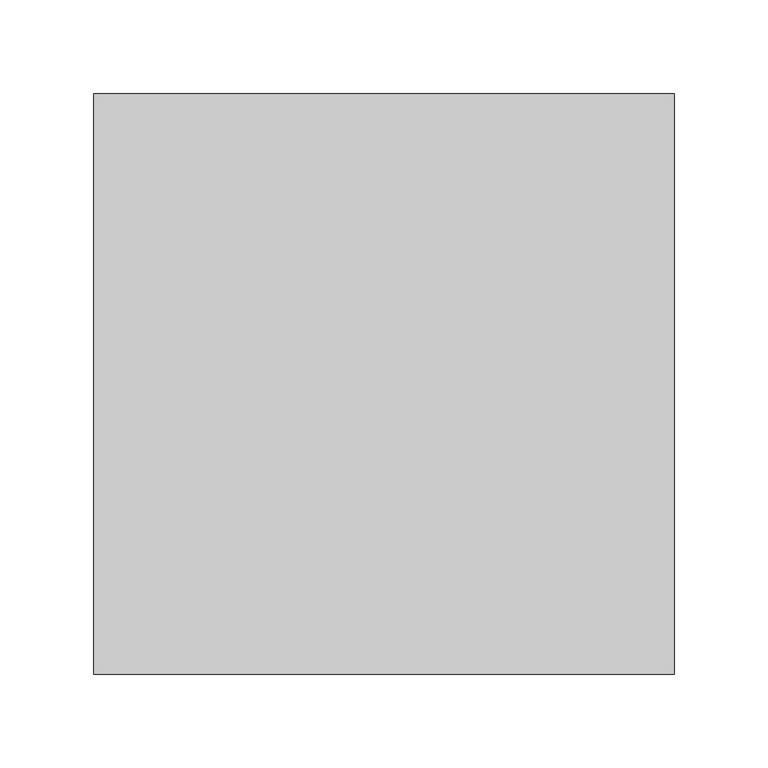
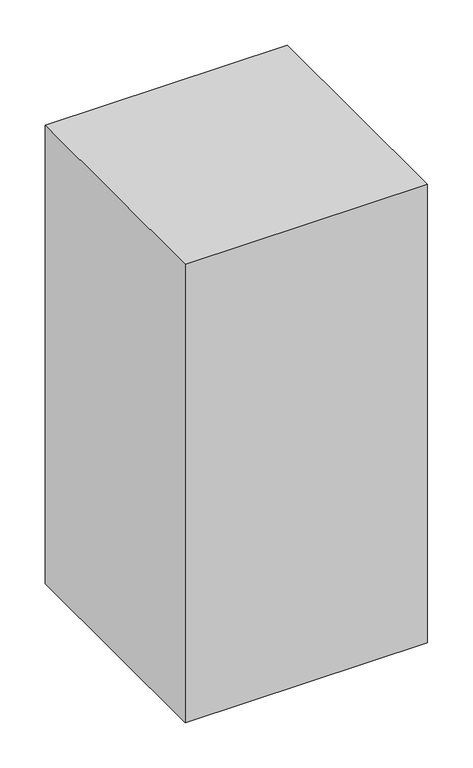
"""IFC4 building model written with IfcOpenShell, lengths in millimetres: proxy geometry, ▲GM_Зона обслуживания : Тип."""

from ifc_helpers import new_model, si_unit, origin, origin_with_axes, place, context, project, spatial, polyline, outline, extrude, source, transform, mapped, element, save


def generic_models_0633d148(model_context):
    return source(origin(), model_context, "Body", "SweptSolid", [
        extrude(outline(polyline([(310.0, -310.0), (0.0, -310.0), (0.0, 0.0), (310.0, 0.0), (310.0, -310.0)])), origin_with_axes(), (0.0, 0.0, 1.0), 620.0),
    ])


if __name__ == "__main__":
    model = new_model("IFC4")
    model_context = context("Model", 3, world=origin())
    ifc_project = project(units=[si_unit("LENGTHUNIT", "METRE", prefix="MILLI")], contexts=[model_context])
    site = spatial("IfcSite", under=ifc_project)
    building = spatial("IfcBuilding", under=site)
    placement = place(None, origin())
    generic_models_shape = generic_models_0633d148(model_context)
    element("IfcBuildingElementProxy", 1, Name="▲GM_Зона обслуживания : Тип", ObjectType="▲GM_Зона обслуживания : Тип", at=placement, inside=building, context=model_context, shape_type="MappedRepresentation", body=[
        mapped(generic_models_shape, transform((0.0, 0.0, 0.0), x_axis=(1.0, 0.0, 0.0), y_axis=(0.0, 1.0, 0.0), z_axis=(0.0, 0.0, 1.0))),
    ])
    save(model, "model.ifc")
